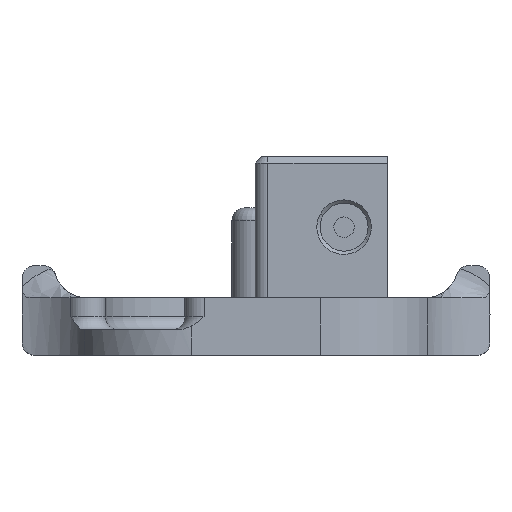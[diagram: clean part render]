
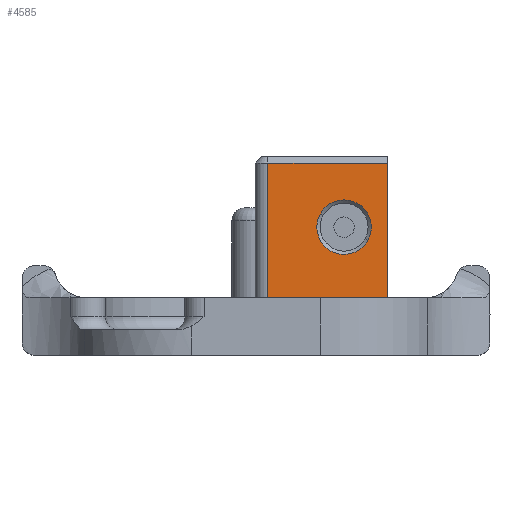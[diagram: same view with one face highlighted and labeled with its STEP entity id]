
A CAD part, front view. The second image highlights one B-rep face of the part: STEP entity #4585.
In plain terms, the highlighted planar face has unit normal (0, -1, 0).
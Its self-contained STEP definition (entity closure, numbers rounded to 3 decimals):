
#2702=AXIS2_PLACEMENT_3D('Circle Axis2P3D',#2700,#2701,$) ;
#2724=AXIS2_PLACEMENT_3D('Circle Axis2P3D',#2722,#2723,$) ;
#4561=AXIS2_PLACEMENT_3D('Plane Axis2P3D',#4558,#4559,#4560) ;
#2634=CARTESIAN_POINT('Vertex',(6.355,-23.9,30.)) ;
#2654=CARTESIAN_POINT('Line Origine',(14.675,-23.9,30.)) ;
#2658=CARTESIAN_POINT('Vertex',(24.995,-23.9,30.)) ;
#2681=CARTESIAN_POINT('Vertex',(14.506,-23.9,22.038)) ;
#2697=CARTESIAN_POINT('Vertex',(21.965,-23.9,17.962)) ;
#2700=CARTESIAN_POINT('Axis2P3D Location',(18.235,-23.9,20.)) ;
#2722=CARTESIAN_POINT('Axis2P3D Location',(18.235,-23.9,20.)) ;
#4543=CARTESIAN_POINT('Vertex',(6.355,-23.9,9.)) ;
#4546=CARTESIAN_POINT('Line Origine',(6.355,-23.9,20.)) ;
#4558=CARTESIAN_POINT('Axis2P3D Location',(24.995,-23.9,9.)) ;
#4563=CARTESIAN_POINT('Line Origine',(15.675,-23.9,9.)) ;
#4567=CARTESIAN_POINT('Vertex',(24.995,-23.9,9.)) ;
#4570=CARTESIAN_POINT('Line Origine',(24.995,-23.9,19.5)) ;
#2655=DIRECTION('Vector Direction',(1.,0.,0.)) ;
#2701=DIRECTION('Axis2P3D Direction',(0.,1.,0.)) ;
#2723=DIRECTION('Axis2P3D Direction',(0.,1.,0.)) ;
#4547=DIRECTION('Vector Direction',(0.,0.,1.)) ;
#4559=DIRECTION('Axis2P3D Direction',(0.,1.,-0.)) ;
#4560=DIRECTION('Axis2P3D XDirection',(-1.,0.,0.)) ;
#4564=DIRECTION('Vector Direction',(-1.,0.,0.)) ;
#4571=DIRECTION('Vector Direction',(0.,0.,1.)) ;
#2656=VECTOR('Line Direction',#2655,1.) ;
#4548=VECTOR('Line Direction',#4547,1.) ;
#4565=VECTOR('Line Direction',#4564,1.) ;
#4572=VECTOR('Line Direction',#4571,1.) ;
#4576=ORIENTED_EDGE('',*,*,#2660,.F.) ;
#4577=ORIENTED_EDGE('',*,*,#4550,.F.) ;
#4578=ORIENTED_EDGE('',*,*,#4569,.T.) ;
#4579=ORIENTED_EDGE('',*,*,#4574,.T.) ;
#4582=ORIENTED_EDGE('',*,*,#2726,.T.) ;
#4583=ORIENTED_EDGE('',*,*,#2704,.T.) ;
#4584=FACE_BOUND('',#4581,.T.) ;
#4585=ADVANCED_FACE('Inserti',(#4580,#4584),#4562,.F.) ;
#2703=CIRCLE('generated circle',#2702,4.25) ;
#2725=CIRCLE('generated circle',#2724,4.25) ;
#2660=EDGE_CURVE('',#2635,#2659,#2657,.T.) ;
#2704=EDGE_CURVE('',#2682,#2698,#2703,.T.) ;
#2726=EDGE_CURVE('',#2698,#2682,#2725,.T.) ;
#4550=EDGE_CURVE('',#4544,#2635,#4549,.T.) ;
#4569=EDGE_CURVE('',#4544,#4568,#4566,.F.) ;
#4574=EDGE_CURVE('',#4568,#2659,#4573,.T.) ;
#4575=EDGE_LOOP('',(#4576,#4577,#4578,#4579)) ;
#4581=EDGE_LOOP('',(#4582,#4583)) ;
#4580=FACE_OUTER_BOUND('',#4575,.T.) ;
#2657=LINE('Line',#2654,#2656) ;
#4549=LINE('Line',#4546,#4548) ;
#4566=LINE('Line',#4563,#4565) ;
#4573=LINE('Line',#4570,#4572) ;
#4562=PLANE('',#4561) ;
#2635=VERTEX_POINT('',#2634) ;
#2659=VERTEX_POINT('',#2658) ;
#2682=VERTEX_POINT('',#2681) ;
#2698=VERTEX_POINT('',#2697) ;
#4544=VERTEX_POINT('',#4543) ;
#4568=VERTEX_POINT('',#4567) ;
